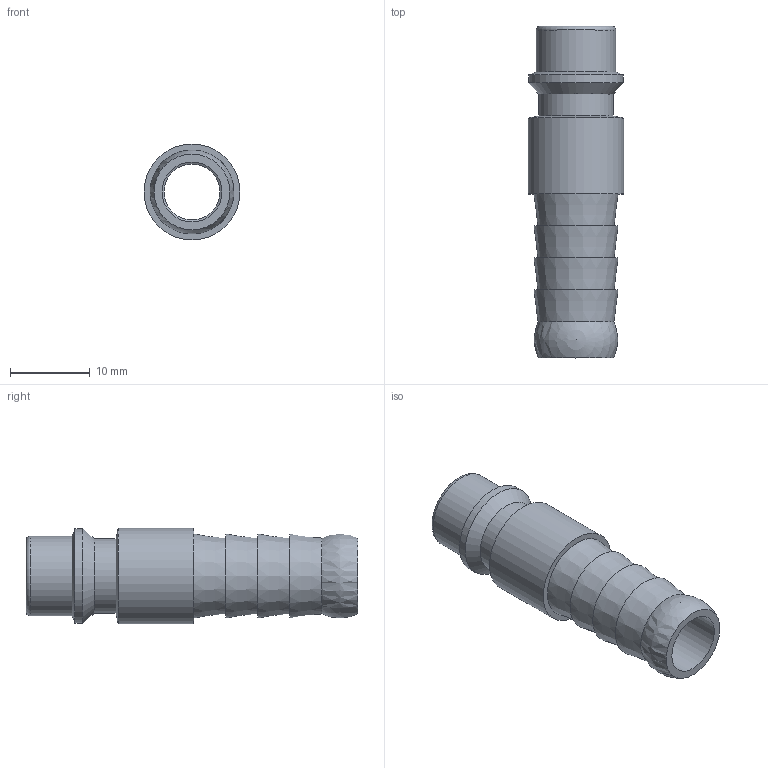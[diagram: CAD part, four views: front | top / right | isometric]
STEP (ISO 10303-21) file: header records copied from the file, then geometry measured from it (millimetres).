
FILE_DESCRIPTION(/* description */ (''),/* implementation_level */ '2;1');
FILE_NAME(/* name */ 'S:\_Tecnico\ArchivioUT\_Disegni3D ingombri\DISEGNI 3D per ingombri\GD\GD900010.stp',/* time_stamp */ '2020-11-19T16:01:07+01:00',/* author */ ('UfficioTecnico'),/* organization */ (''),/* preprocessor_version */ 'ST-DEVELOPER v18',/* originating_system */ 'Autodesk Inventor 2020',/* authorisation */ '');
FILE_SCHEMA (('AUTOMOTIVE_DESIGN { 1 0 10303 214 3 1 1 }'));
Length unit declared in the file: millimetre
Products named in the file (1): GD900010
Bounding box: 12 x 41.5 x 12 mm (x, y, z)
Volume: 1852.7 mm3; surface area: 2537.8 mm2
Topology: 1 solids, 1 shells, 23 faces, 64 edges, 47 vertices
Faces by surface type: cone 9, plane 6, cylinder 6, torus 1, sphere 1
Full cylindrical faces by diameter (mm): 7 x1, 7.5 x1, 9.3 x1, 9.9 x1, 11.8 x1, 12 x1
Entity records: 824 total; most frequent: DIRECTION 157, CARTESIAN_POINT 133, ORIENTED_EDGE 124, AXIS2_PLACEMENT_3D 71, EDGE_CURVE 62, CIRCLE 47, VERTEX_POINT 47, EDGE_LOOP 31
